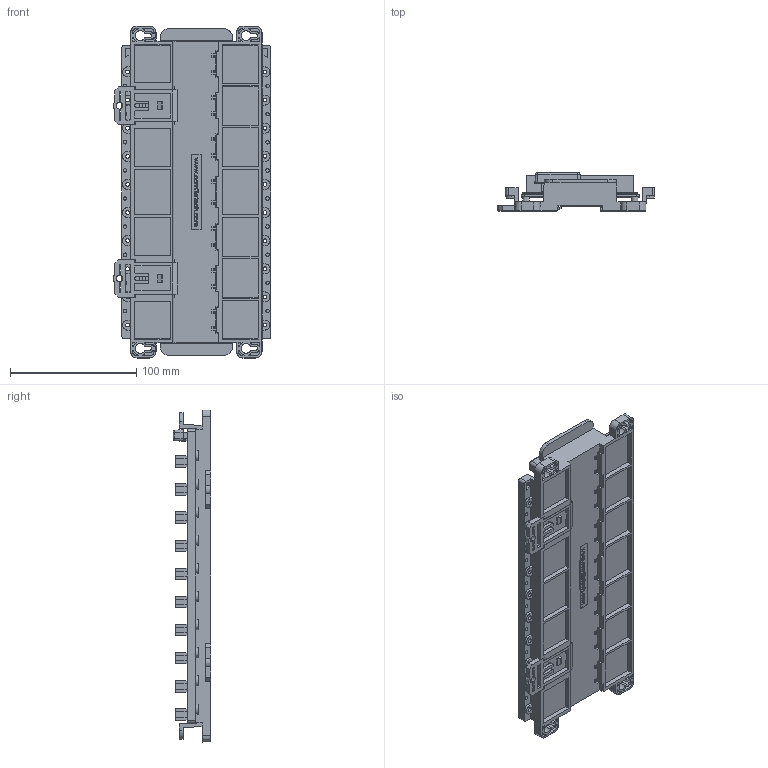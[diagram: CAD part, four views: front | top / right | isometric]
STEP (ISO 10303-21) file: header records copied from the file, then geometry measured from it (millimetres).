
FILE_DESCRIPTION (( 'STEP AP214' ), '1' );
FILE_NAME ('MOACON_BASE_10set.STEP', '2023-03-29T14:54:03', ( '' ), ( '' ), 'SwSTEP 2.0', 'SolidWorks 2020', '' );
FILE_SCHEMA (( 'AUTOMOTIVE_DESIGN' ));
Length unit declared in the file: millimetre
Products named in the file (1): MOACON_BASE_10set
Bounding box: 125.04 x 29.9 x 263.24 mm (x, y, z)
Surface area: 193655.1 mm2 (no closed solid volume)
Topology: 0 solids, 34 shells, 1555 faces, 5199 edges, 3526 vertices
Faces by surface type: plane 1173, cone 153, bspline 120, cylinder 103, torus 4, sphere 2
Full cylindrical faces by diameter (mm): 1.603 x1, 3 x22, 3.2 x6, 5.4 x2
Entity records: 78984 total; most frequent: CARTESIAN_POINT 18911, ORIENTED_EDGE 8636, DIRECTION 7905, EDGE_CURVE 5098, LINE 4007, VECTOR 4007, VERTEX_POINT 3487, AXIS2_PLACEMENT_3D 1949
